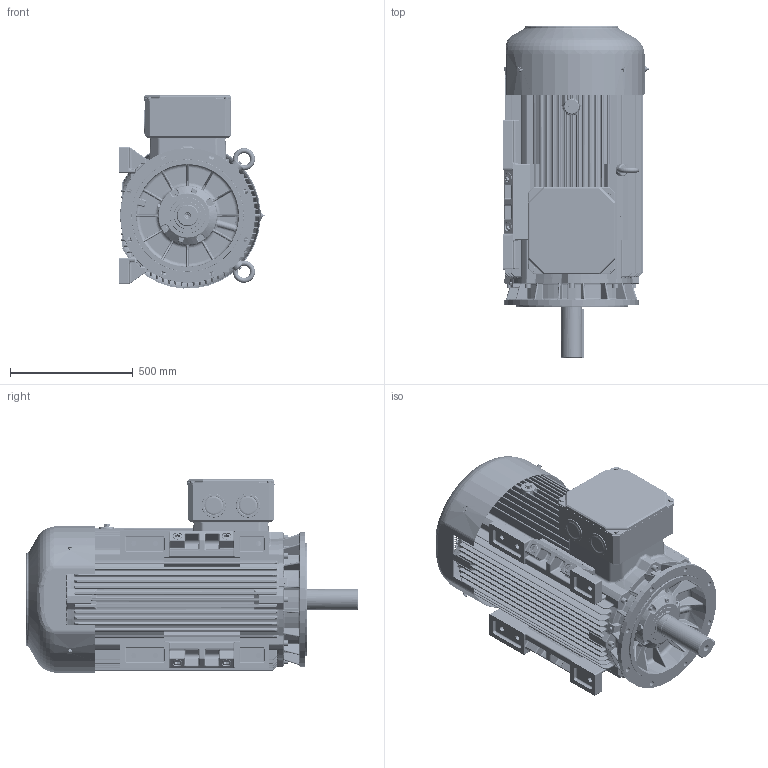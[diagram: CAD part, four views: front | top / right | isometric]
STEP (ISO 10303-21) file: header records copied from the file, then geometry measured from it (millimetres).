
FILE_DESCRIPTION(/* description */ ('Unknown','CAx-IF Rec.Pracs.---Representation and Presentation of Product Manufacturing Information (PMI)---4.0---2014-10-13','CAx-IF Rec.Pracs.---3D Tessellated Geometry---0.4---2014-09-14','2;1'),/* implementation_level */ '2;1');
FILE_NAME(/* name */ 'Silnik SIE447TDL4B',/* time_stamp */ '2024-07-08T09:56:40+02:00',/* author */ ('Unknown'),/* organization */ ('Unknown'),/* preprocessor_version */ 'ST-DEVELOPER v16.7',/* originating_system */ 'DEX',/* authorisation */ $);
FILE_SCHEMA (('AP242_MANAGED_MODEL_BASED_3D_ENGINEERING_MIM_LF { 1 0 10303 442 20130219 1 4 }'));
Products named in the file (1): Silnik SIE447TDL4B
Bounding box: 594.91 x 1353.96 x 787.55 mm (x, y, z)
Volume: 184945553.1 mm3; surface area: 13093649.1 mm2
Topology: 2 solids, 47 shells, 12478 faces, 32174 edges, 19760 vertices
Faces by surface type: plane 5973, cylinder 3203, bspline 1723, torus 879, cone 389, sphere 311
Full cylindrical faces by diameter (mm): 0.25 x1, 1.6 x2, 2.5 x3, 3 x1, 3.5 x4, 4.917 x2, 5 x7, 6 x3, 6.2 x14, 6.466 x8, 6.647 x12, 8 x21, 8.36 x2, 8.376 x4, 8.8 x1, 8.917 x4, 9 x12, 9.853 x4, 10 x12, 10.106 x12, 10.5 x4, 12 x12, 13 x8, 13.546 x8, 13.835 x10, 14 x14, 14.63 x4, 16 x20, 16.63 x8, 17 x2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
Entity records: 523501 total; most frequent: CARTESIAN_POINT 145618, ORIENTED_EDGE 61438, DIRECTION 57110, EDGE_CURVE 30719, AXIS2_PLACEMENT_3D 19644, VERTEX_POINT 19331, LINE 17822, VECTOR 17822
